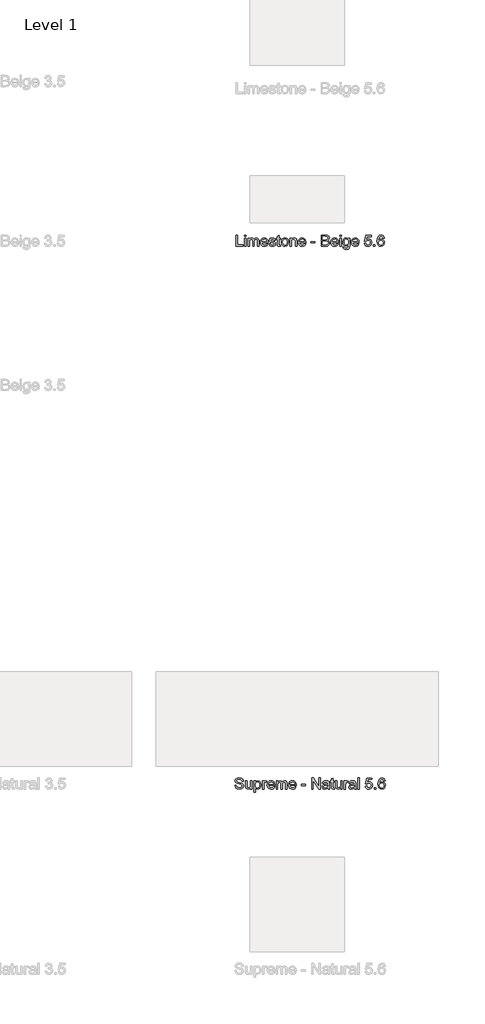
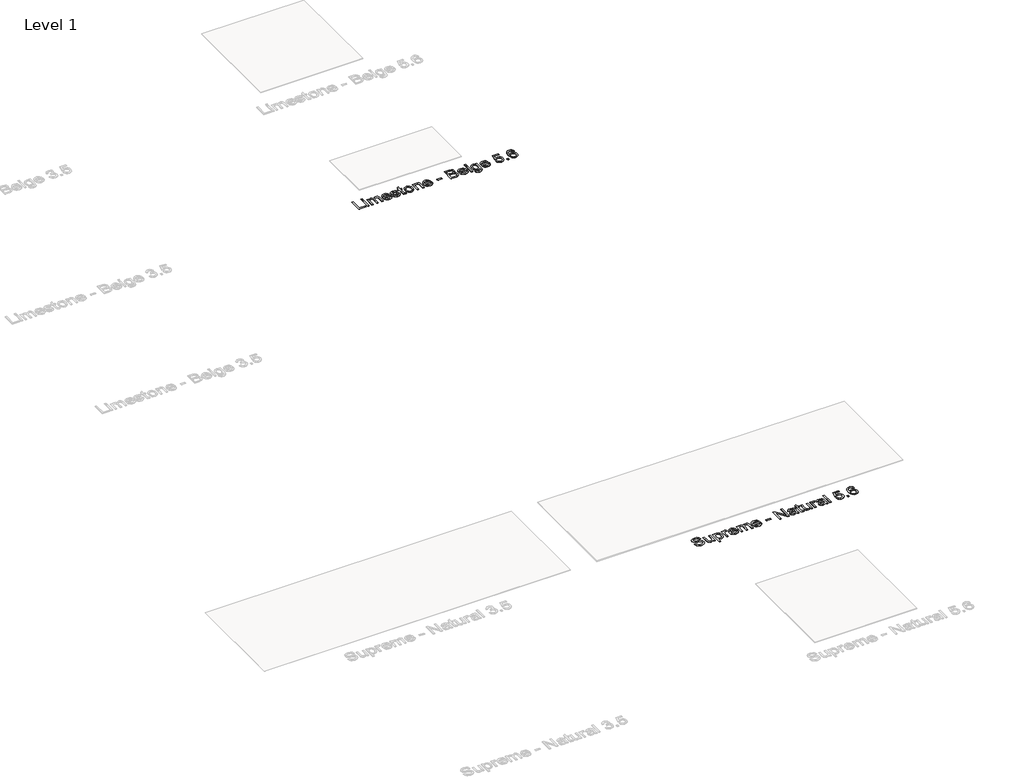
# One storey, part 73 of 80: 2 proxies.
"""IFC4 building model written with IfcOpenShell, lengths in millimetres."""

from ifc_helpers import new_model, si_unit, origin, origin_with_axes, place, context, project, spatial, polyline, outline, extrude, element, save

model = new_model("IFC4")

# Units and contexts
model_context = context("Model", 3, world=origin())
ifc_project = project(units=[si_unit("LENGTHUNIT", "METRE", prefix="MILLI")], contexts=[model_context])

# Site, building, storey
site = spatial("IfcSite", under=ifc_project)
building = spatial("IfcBuilding", under=site)
storey = spatial("IfcBuildingStorey", under=building, Name="Level 1", Elevation=0.0)

# Proxies
placement = place(None, origin())
element("IfcBuildingElementProxy", 1, Name="24\" Arial", ObjectType="24\" Arial", at=placement, inside=storey, context=model_context, shape_type="SweptSolid", body=[
    extrude(outline(polyline([(15947.3854306, 7106.868207), (15947.3854306, 7225.0220532), (15962.1546613, 7225.0220532), (15962.1546613, 7121.6374378), (16021.2315844, 7121.6374378), (16021.2315844, 7106.868207), (15947.3854306, 7106.868207)])), origin_with_axes(), (0.0, 0.0, 1.0), 2.0),
    extrude(outline(polyline([(16036.0008152, 7210.2528224), (16036.0008152, 7225.0220532), (16050.7700459, 7225.0220532), (16050.7700459, 7210.2528224), (16036.0008152, 7210.2528224)])), origin_with_axes(), (0.0, 0.0, 1.0), 2.0),
    extrude(outline(polyline([(16036.0008152, 7106.868207), (16036.0008152, 7193.6374378), (16050.7700459, 7193.6374378), (16050.7700459, 7106.868207), (16036.0008152, 7106.868207)])), origin_with_axes(), (0.0, 0.0, 1.0), 2.0),
    extrude(outline(polyline([(16072.9238921, 7106.868207), (16072.9238921, 7193.6374378), (16087.6931229, 7193.6374378), (16087.6931229, 7179.3585916), (16097.846969, 7191.055707), (16112.2988921, 7195.4835916), (16127.096969, 7190.9691686), (16135.2315844, 7178.3201301), (16146.7556229, 7191.1927263), (16161.3085075, 7195.4835916), (16172.4106709, 7193.6987359), (16180.6210075, 7188.3441686), (16185.6943248, 7179.275659), (16187.3854306, 7166.3489763), (16187.3854306, 7106.868207), (16172.6161998, 7106.868207), (16172.6161998, 7160.0028224), (16171.2460075, 7172.3345532), (16166.284469, 7178.4066686), (16157.846969, 7180.7143609), (16149.8457671, 7179.2359955), (16143.3229306, 7174.8008993), (16138.9851902, 7167.1061878), (16137.5392767, 7155.8489763), (16137.5392767, 7106.868207), (16122.7700459, 7106.868207), (16122.7700459, 7161.6470532), (16119.3517767, 7175.9547455), (16108.1450459, 7180.7143609), (16097.2123536, 7177.541284), (16089.9431229, 7168.2528224), (16087.6931229, 7150.6278224), (16087.6931229, 7106.868207), (16072.9238921, 7106.868207)])), origin_with_axes(), (0.0, 0.0, 1.0), 2.0),
    extrude(outline(polyline([(16270.2892767, 7132.7143609), (16284.7700459, 7130.868207), (16279.5524979, 7119.9571493), (16271.2267767, 7111.8008993), (16259.9803825, 7106.7167647), (16246.0008152, 7105.0220532), (16228.6714883, 7107.946332), (16215.3373536, 7116.7191686), (16206.8349498, 7130.7708513), (16204.0008152, 7149.5316686), (16206.8637959, 7168.9234955), (16215.4527383, 7183.4258993), (16228.6065844, 7192.4691686), (16245.1642767, 7195.4835916), (16261.206344, 7192.4763801), (16274.0248536, 7183.4547455), (16282.4299017, 7168.9811878), (16285.2315844, 7149.618207), (16285.1450459, 7145.6374378), (16218.7700459, 7145.6374378), (16221.3265363, 7134.5821493), (16227.2652383, 7126.4547455), (16235.8361517, 7121.4571493), (16246.2892767, 7119.791284), (16260.7700459, 7122.8778224), (16270.2892767, 7132.7143609)]), holes=[polyline([(16218.7700459, 7160.4066686), (16270.4623536, 7160.4066686), (16264.5488921, 7173.791284), (16255.9383152, 7178.9835916), (16245.1065844, 7180.7143609), (16226.9190844, 7175.1903224), (16221.1967286, 7168.7323897), (16218.7700459, 7160.4066686)])]), origin_with_axes(), (0.0, 0.0, 1.0), 2.0),
    extrude(outline(polyline([(16294.4623536, 7132.7143609), (16309.2315844, 7134.5605147), (16316.0681229, 7123.5989763), (16331.7315844, 7119.791284), (16346.7892767, 7123.2816686), (16351.6931229, 7131.4739763), (16346.7604306, 7138.1085916), (16331.5585075, 7142.3201301), (16309.3181229, 7149.5460916), (16299.6113921, 7157.9835916), (16296.3085075, 7169.8970532), (16298.9623536, 7180.9018609), (16306.2027383, 7189.3105147), (16315.5921613, 7193.680707), (16328.2988921, 7195.4835916), (16346.2700459, 7192.5845532), (16357.6931229, 7184.7383993), (16362.7700459, 7171.4835916), (16348.0008152, 7169.6374378), (16342.4479306, 7177.7864763), (16329.4527383, 7180.7143609), (16315.3181229, 7177.916284), (16311.0777383, 7171.3970532), (16312.8373536, 7167.0989763), (16318.346969, 7163.8393609), (16331.0681229, 7160.6951301), (16352.7460075, 7153.743207), (16362.8133152, 7145.868207), (16366.4623536, 7133.0316686), (16362.1786998, 7118.8970532), (16349.8181229, 7108.6422455), (16331.5296613, 7105.0220532), (16316.6378344, 7106.7672455), (16305.7700459, 7112.0028224), (16298.5152383, 7120.6710916), (16294.4623536, 7132.7143609)])), origin_with_axes(), (0.0, 0.0, 1.0), 2.0),
    extrude(outline(polyline([(16414.4623536, 7119.1855147), (16416.3085075, 7106.4355147), (16405.2604306, 7105.0220532), (16392.8854306, 7107.4739763), (16386.7123536, 7113.9066686), (16384.9238921, 7130.666284), (16384.9238921, 7178.868207), (16373.846969, 7178.868207), (16373.846969, 7193.6374378), (16384.9238921, 7193.6374378), (16384.9238921, 7214.7239763), (16399.6931229, 7223.4066686), (16399.6931229, 7193.6374378), (16414.4623536, 7193.6374378), (16414.4623536, 7178.868207), (16399.6931229, 7178.868207), (16399.6931229, 7131.0989763), (16400.471969, 7123.4835916), (16402.9960075, 7120.7864763), (16408.0296613, 7119.791284), (16414.4623536, 7119.1855147)])), origin_with_axes(), (0.0, 0.0, 1.0), 2.0),
    extrude(outline(polyline([(16425.5392767, 7150.2528224), (16428.7339883, 7171.1734955), (16438.3181229, 7185.8778224), (16450.159469, 7193.0821493), (16464.3373536, 7195.4835916), (16479.8529786, 7192.5593128), (16492.2460075, 7183.7864763), (16500.3698056, 7169.8573897), (16503.0777383, 7151.4643609), (16498.2892767, 7125.1855147), (16484.3421613, 7110.3153224), (16464.3373536, 7105.0220532), (16448.6342286, 7107.9355147), (16436.2556229, 7116.6758993), (16428.2183633, 7130.8970532), (16425.5392767, 7150.2528224)]), holes=[polyline([(16440.3085075, 7150.2816686), (16442.0176421, 7136.915082), (16447.1450459, 7127.3922455), (16454.8613921, 7121.6915243), (16464.3373536, 7119.791284), (16473.7700459, 7121.7023416), (16481.471969, 7127.4355147), (16486.5993729, 7137.0845532), (16488.3085075, 7150.743207), (16486.5885556, 7163.7203705), (16481.4286998, 7173.1133993), (16473.7159594, 7178.8141205), (16464.3373536, 7180.7143609), (16454.8613921, 7178.821332), (16447.1450459, 7173.1422455), (16442.0176421, 7163.6410436), (16440.3085075, 7150.2816686)])]), origin_with_axes(), (0.0, 0.0, 1.0), 2.0),
    extrude(outline(polyline([(16519.6931229, 7106.868207), (16519.6931229, 7193.6374378), (16534.4623536, 7193.6374378), (16534.4623536, 7181.5220532), (16545.7556229, 7191.993207), (16561.1738921, 7195.4835916), (16575.1210075, 7192.6710916), (16584.6402383, 7185.2864763), (16589.0681229, 7174.4258993), (16589.846969, 7160.1470532), (16589.846969, 7106.868207), (16575.0777383, 7106.868207), (16575.0777383, 7158.1566686), (16573.3758152, 7171.2239763), (16567.3613921, 7178.1326301), (16557.221969, 7180.7143609), (16541.1979306, 7174.916284), (16536.1462479, 7166.5148416), (16534.4623536, 7152.9066686), (16534.4623536, 7106.868207), (16519.6931229, 7106.868207)])), origin_with_axes(), (0.0, 0.0, 1.0), 2.0),
    extrude(outline(polyline([(16670.9046613, 7132.7143609), (16685.3854306, 7130.868207), (16680.1678825, 7119.9571493), (16671.8421613, 7111.8008993), (16660.5957671, 7106.7167647), (16646.6161998, 7105.0220532), (16629.2868729, 7107.946332), (16615.9527383, 7116.7191686), (16607.4503344, 7130.7708513), (16604.6161998, 7149.5316686), (16607.4791806, 7168.9234955), (16616.0681229, 7183.4258993), (16629.221969, 7192.4691686), (16645.7796613, 7195.4835916), (16661.8217286, 7192.4763801), (16674.6402383, 7183.4547455), (16683.0452863, 7168.9811878), (16685.846969, 7149.618207), (16685.7604306, 7145.6374378), (16619.3854306, 7145.6374378), (16621.9419209, 7134.5821493), (16627.8806229, 7126.4547455), (16636.4515363, 7121.4571493), (16646.9046613, 7119.791284), (16661.3854306, 7122.8778224), (16670.9046613, 7132.7143609)]), holes=[polyline([(16619.3854306, 7160.4066686), (16671.0777383, 7160.4066686), (16665.1642767, 7173.791284), (16656.5536998, 7178.9835916), (16645.721969, 7180.7143609), (16627.534469, 7175.1903224), (16621.8121133, 7168.7323897), (16619.3854306, 7160.4066686)])]), origin_with_axes(), (0.0, 0.0, 1.0), 2.0),
    extrude(outline(polyline([(16739.3854306, 7141.9451301), (16739.3854306, 7156.7143609), (16785.5392767, 7156.7143609), (16785.5392767, 7141.9451301), (16739.3854306, 7141.9451301)])), origin_with_axes(), (0.0, 0.0, 1.0), 2.0),
    extrude(outline(polyline([(16850.1546613, 7106.868207), (16850.1546613, 7225.0220532), (16895.2411998, 7225.0220532), (16917.3229306, 7221.5460916), (16930.3613921, 7210.8585916), (16935.0777383, 7195.743207), (16931.1113921, 7181.9403224), (16919.1258152, 7171.4835916), (16933.6786998, 7160.4643609), (16938.7700459, 7142.0893609), (16935.2940844, 7126.2095532), (16926.6835075, 7114.9018609), (16913.8325459, 7108.9018609), (16894.8950459, 7106.868207), (16850.1546613, 7106.868207)]), holes=[polyline([(16864.9238921, 7121.6374378), (16895.2123536, 7121.6374378), (16906.1738921, 7122.2143609), (16915.4479306, 7125.430707), (16921.5921613, 7131.993207), (16924.0008152, 7141.9451301), (16921.1738921, 7153.4258993), (16912.0152383, 7160.2768609), (16893.7700459, 7162.2528224), (16864.9238921, 7162.2528224), (16864.9238921, 7121.6374378)]), polyline([(16864.9238921, 7177.0220532), (16891.8950459, 7177.0220532), (16907.6450459, 7178.291284), (16917.1210075, 7183.7576301), (16920.3085075, 7193.3778224), (16917.3373536, 7203.0124378), (16908.8277383, 7208.7095532), (16889.846969, 7210.2528224), (16864.9238921, 7210.2528224), (16864.9238921, 7177.0220532)])]), origin_with_axes(), (0.0, 0.0, 1.0), 2.0),
    extrude(outline(polyline([(17017.9815844, 7132.7143609), (17032.4623536, 7130.868207), (17027.2448056, 7119.9571493), (17018.9190844, 7111.8008993), (17007.6726902, 7106.7167647), (16993.6931229, 7105.0220532), (16976.3637959, 7107.946332), (16963.0296613, 7116.7191686), (16954.5272575, 7130.7708513), (16951.6931229, 7149.5316686), (16954.5561036, 7168.9234955), (16963.1450459, 7183.4258993), (16976.2988921, 7192.4691686), (16992.8565844, 7195.4835916), (17008.8986517, 7192.4763801), (17021.7171613, 7183.4547455), (17030.1222094, 7168.9811878), (17032.9238921, 7149.618207), (17032.8373536, 7145.6374378), (16966.4623536, 7145.6374378), (16969.018844, 7134.5821493), (16974.9575459, 7126.4547455), (16983.5284594, 7121.4571493), (16993.9815844, 7119.791284), (17008.4623536, 7122.8778224), (17017.9815844, 7132.7143609)]), holes=[polyline([(16966.4623536, 7160.4066686), (17018.1546613, 7160.4066686), (17012.2411998, 7173.791284), (17003.6306229, 7178.9835916), (16992.7988921, 7180.7143609), (16974.6113921, 7175.1903224), (16968.8890363, 7168.7323897), (16966.4623536, 7160.4066686)])]), origin_with_axes(), (0.0, 0.0, 1.0), 2.0),
    extrude(outline(polyline([(17047.6931229, 7106.868207), (17047.6931229, 7193.6374378), (17062.4623536, 7193.6374378), (17062.4623536, 7106.868207), (17047.6931229, 7106.868207)])), origin_with_axes(), (0.0, 0.0, 1.0), 2.0),
    extrude(outline(polyline([(17047.6931229, 7210.2528224), (17047.6931229, 7225.0220532), (17062.4623536, 7225.0220532), (17062.4623536, 7210.2528224), (17047.6931229, 7210.2528224)])), origin_with_axes(), (0.0, 0.0, 1.0), 2.0),
    extrude(outline(polyline([(17080.9238921, 7099.4835916), (17095.6931229, 7097.6374378), (17100.4815844, 7089.8489763), (17114.8181229, 7086.5605147), (17129.9335075, 7090.2816686), (17137.1450459, 7100.7239763), (17138.1546613, 7117.9451301), (17127.7556229, 7109.6374378), (17115.0777383, 7106.868207), (17099.8505748, 7110.0917647), (17088.4960075, 7119.7624378), (17081.4323056, 7133.9403224), (17079.0777383, 7150.6855147), (17083.3036998, 7173.5749378), (17095.534469, 7189.7720532), (17114.3565844, 7195.4835916), (17127.5320652, 7192.2528224), (17138.1546613, 7182.5605147), (17138.1546613, 7193.6374378), (17152.9238921, 7193.6374378), (17152.9238921, 7118.7239763), (17148.8854306, 7090.0364763), (17136.0921613, 7076.6951301), (17114.5296613, 7071.791284), (17100.7880748, 7073.5184474), (17089.9671613, 7078.6999378), (17083.0260556, 7087.3501782), (17080.9238921, 7099.4835916)]), holes=[polyline([(17093.846969, 7151.6951301), (17095.4226902, 7138.1482551), (17100.1498536, 7128.8345532), (17107.2568248, 7123.4367166), (17115.971969, 7121.6374378), (17124.6222094, 7123.4258993), (17131.7652383, 7128.791284), (17136.5573056, 7137.9859955), (17138.1546613, 7151.2624378), (17136.5104306, 7164.0665243), (17131.5777383, 7173.2864763), (17124.3301421, 7178.8573897), (17115.7411998, 7180.7143609), (17107.3073056, 7178.8862359), (17100.2363921, 7173.4018609), (17095.4443248, 7164.3189282), (17093.846969, 7151.6951301)])]), origin_with_axes(), (0.0, 0.0, 1.0), 2.0),
    extrude(outline(polyline([(17235.8277383, 7132.7143609), (17250.3085075, 7130.868207), (17245.0909594, 7119.9571493), (17236.7652383, 7111.8008993), (17225.518844, 7106.7167647), (17211.5392767, 7105.0220532), (17194.2099498, 7107.946332), (17180.8758152, 7116.7191686), (17172.3734113, 7130.7708513), (17169.5392767, 7149.5316686), (17172.4022575, 7168.9234955), (17180.9911998, 7183.4258993), (17194.1450459, 7192.4691686), (17210.7027383, 7195.4835916), (17226.7448056, 7192.4763801), (17239.5633152, 7183.4547455), (17247.9683633, 7168.9811878), (17250.7700459, 7149.618207), (17250.6835075, 7145.6374378), (17184.3085075, 7145.6374378), (17186.8649979, 7134.5821493), (17192.8036998, 7126.4547455), (17201.3746133, 7121.4571493), (17211.8277383, 7119.791284), (17226.3085075, 7122.8778224), (17235.8277383, 7132.7143609)]), holes=[polyline([(17184.3085075, 7160.4066686), (17236.0008152, 7160.4066686), (17230.0873536, 7173.791284), (17221.4767767, 7178.9835916), (17210.6450459, 7180.7143609), (17192.4575459, 7175.1903224), (17186.7351902, 7168.7323897), (17184.3085075, 7160.4066686)])]), origin_with_axes(), (0.0, 0.0, 1.0), 2.0),
    extrude(outline(polyline([(17308.0008152, 7138.2528224), (17322.7700459, 7140.0989763), (17330.2123536, 7124.8826301), (17345.6450459, 7119.791284), (17356.2315844, 7121.5617166), (17364.1642767, 7126.8730147), (17369.1186036, 7135.1121974), (17370.7700459, 7145.666284), (17369.2231709, 7155.603784), (17364.5825459, 7163.2047455), (17356.8121133, 7168.0292647), (17345.8758152, 7169.6374378), (17332.909469, 7167.0701301), (17324.6161998, 7160.4066686), (17309.846969, 7162.2528224), (17322.7700459, 7223.1758993), (17380.0008152, 7223.1758993), (17380.0008152, 7208.4066686), (17334.7123536, 7208.4066686), (17328.3950459, 7175.868207), (17338.9455267, 7182.2720532), (17350.0008152, 7184.4066686), (17363.800094, 7181.760034), (17375.2556229, 7173.8201301), (17382.9683633, 7161.7191686), (17385.5392767, 7146.5893609), (17383.2243729, 7131.8201301), (17376.2796613, 7119.1855147), (17362.9815844, 7108.5629186), (17345.5873536, 7105.0220532), (17331.081344, 7107.2972936), (17319.5248536, 7114.1230147), (17311.6029786, 7124.7059474), (17308.0008152, 7138.2528224)])), origin_with_axes(), (0.0, 0.0, 1.0), 2.0),
    extrude(outline(polyline([(17405.846969, 7106.868207), (17405.846969, 7121.6374378), (17420.6161998, 7121.6374378), (17420.6161998, 7106.868207), (17405.846969, 7106.868207)])), origin_with_axes(), (0.0, 0.0, 1.0), 2.0),
    extrude(outline(polyline([(17520.3085075, 7193.6374378), (17505.5392767, 7191.791284), (17499.9431229, 7204.1085916), (17493.2436036, 7208.7167647), (17485.1450459, 7210.2528224), (17471.8181229, 7206.6758993), (17461.7363921, 7193.2480147), (17457.5392767, 7166.9258993), (17470.5633152, 7178.7095532), (17486.7027383, 7182.5605147), (17500.346969, 7179.9283032), (17511.7988921, 7172.0316686), (17519.565719, 7159.9667647), (17522.1546613, 7144.8297455), (17517.2796613, 7124.4499378), (17503.8661998, 7110.0268609), (17484.5104306, 7105.0220532), (17467.7544209, 7108.3393609), (17454.409469, 7118.291284), (17445.6799017, 7135.8585916), (17442.7700459, 7162.0220532), (17446.0008152, 7191.4379186), (17455.6931229, 7211.5508993), (17468.9262959, 7221.6542647), (17486.0681229, 7225.0220532), (17499.0272575, 7222.9379186), (17509.4046613, 7216.6855147), (17516.6738921, 7206.7552263), (17520.3085075, 7193.6374378)]), holes=[polyline([(17457.5392767, 7145.0605147), (17460.9575459, 7132.2672455), (17470.0440844, 7122.978784), (17483.3565844, 7119.791284), (17493.1029786, 7121.4427263), (17500.7652383, 7126.3970532), (17505.7303825, 7134.1855147), (17507.3854306, 7144.3393609), (17505.7520171, 7154.0857551), (17500.8517767, 7161.5172455), (17493.0597094, 7166.2227743), (17482.7508152, 7167.791284), (17473.018844, 7166.2227743), (17464.8806229, 7161.5172455), (17459.3746133, 7154.2660436), (17457.5392767, 7145.0605147)])]), origin_with_axes(), (0.0, 0.0, 1.0), 2.0),
])
element("IfcBuildingElementProxy", 2, Name="24\" Arial", ObjectType="24\" Arial", at=placement, inside=storey, context=model_context, shape_type="SweptSolid", body=[
    extrude(outline(polyline([(15932.6161998, 1389.3439467), (15947.3854306, 1389.3439467), (15952.1450459, 1374.5602928), (15963.7700459, 1365.214139), (15981.4815844, 1361.651639), (15996.9142767, 1364.3487544), (16006.8806229, 1371.7622159), (16010.1546613, 1381.6708697), (16007.7027383, 1390.8872159), (15997.6642767, 1397.5939467), (15976.159469, 1403.2333697), (15953.0104306, 1410.5170236), (15940.4479306, 1421.5074082), (15936.3085075, 1436.1901005), (15941.4286998, 1452.9064467), (15956.3854306, 1464.7045236), (15978.2796613, 1468.728562), (16001.6450459, 1464.5170236), (16017.221969, 1452.1420236), (16023.0777383, 1433.651639), (16008.3085075, 1433.651639), (16005.596969, 1442.464139), (15999.9431229, 1448.8247159), (15991.1089883, 1452.6756774), (15978.8565844, 1453.9593313), (15966.315719, 1452.6901005), (15957.7123536, 1448.8824082), (15952.7363921, 1443.2790428), (15951.0777383, 1436.6227928), (15955.7796613, 1426.3824082), (15979.8950459, 1418.1324082), (16006.0296613, 1410.7189467), (16020.3229306, 1398.7477928), (16024.9238921, 1382.0458697), (16019.6306229, 1364.3776005), (16004.3998536, 1351.4833697), (15982.0585075, 1346.8824082), (15955.6786998, 1351.8439467), (15946.1919209, 1358.0602928), (15938.9911998, 1366.7862544), (15932.6161998, 1389.3439467)])), origin_with_axes(), (0.0, 0.0, 1.0), 2.0),
    extrude(outline(polyline([(16100.6161998, 1348.728562), (16100.6161998, 1363.6420236), (16089.0488921, 1351.072312), (16073.9623536, 1346.8824082), (16060.0729306, 1349.8247159), (16050.4960075, 1357.2093313), (16046.096969, 1368.0843313), (16045.2315844, 1381.8151005), (16045.2315844, 1435.4977928), (16060.0008152, 1435.4977928), (16060.0008152, 1388.7670236), (16060.8950459, 1373.7093313), (16066.7363921, 1364.8679851), (16077.7411998, 1361.651639), (16090.0729306, 1364.9401005), (16098.221969, 1373.8968313), (16100.6161998, 1390.353562), (16100.6161998, 1435.4977928), (16115.3854306, 1435.4977928), (16115.3854306, 1348.728562), (16100.6161998, 1348.728562)])), origin_with_axes(), (0.0, 0.0, 1.0), 2.0),
    extrude(outline(polyline([(16135.6931229, 1315.4977928), (16135.6931229, 1435.4977928), (16150.4623536, 1435.4977928), (16150.4623536, 1421.0170236), (16160.6738921, 1433.2622159), (16174.4623536, 1437.3439467), (16193.1835075, 1431.6324082), (16205.4142767, 1415.5362544), (16209.5392767, 1392.776639), (16204.8806229, 1368.8487544), (16199.1690844, 1359.4593313), (16191.3517767, 1352.5506774), (16172.6738921, 1346.8824082), (16159.8229306, 1350.6756774), (16150.4623536, 1360.2670236), (16150.4623536, 1315.4977928), (16135.6931229, 1315.4977928)]), holes=[polyline([(16150.4623536, 1391.4208697), (16152.0597094, 1378.1804851), (16156.8517767, 1368.9208697), (16163.9226902, 1363.4689467), (16172.3565844, 1361.651639), (16180.9274979, 1363.5338505), (16188.1786998, 1369.1804851), (16193.1222094, 1378.7790428), (16194.7700459, 1392.5170236), (16193.1618729, 1405.6852928), (16188.3373536, 1415.0747159), (16181.2772575, 1420.6997159), (16172.9623536, 1422.5747159), (16164.6149979, 1420.5807255), (16157.284469, 1414.5987544), (16152.1678825, 1404.8163024), (16150.4623536, 1391.4208697)])]), origin_with_axes(), (0.0, 0.0, 1.0), 2.0),
    extrude(outline(polyline([(16226.1546613, 1348.728562), (16226.1546613, 1435.4977928), (16239.0777383, 1435.4977928), (16239.0777383, 1422.6612544), (16248.2508152, 1434.4881774), (16257.4815844, 1437.3439467), (16272.3085075, 1432.7862544), (16267.3758152, 1419.5458697), (16256.9911998, 1422.5747159), (16248.6402383, 1419.6612544), (16243.3181229, 1411.5843313), (16240.9238921, 1394.3343313), (16240.9238921, 1348.728562), (16226.1546613, 1348.728562)])), origin_with_axes(), (0.0, 0.0, 1.0), 2.0),
    extrude(outline(polyline([(16342.2892767, 1374.5747159), (16356.7700459, 1372.728562), (16351.5524979, 1361.8175044), (16343.2267767, 1353.6612544), (16331.9803825, 1348.5771197), (16318.0008152, 1346.8824082), (16300.6714883, 1349.806687), (16287.3373536, 1358.5795236), (16278.8349498, 1372.6312063), (16276.0008152, 1391.3920236), (16278.8637959, 1410.7838505), (16287.4527383, 1425.2862544), (16300.6065844, 1434.3295236), (16317.1642767, 1437.3439467), (16333.206344, 1434.3367351), (16346.0248536, 1425.3151005), (16354.4299017, 1410.8415428), (16357.2315844, 1391.478562), (16357.1450459, 1387.4977928), (16290.7700459, 1387.4977928), (16293.3265363, 1376.4425044), (16299.2652383, 1368.3151005), (16307.8361517, 1363.3175044), (16318.2892767, 1361.651639), (16332.7700459, 1364.7381774), (16342.2892767, 1374.5747159)]), holes=[polyline([(16290.7700459, 1402.2670236), (16342.4623536, 1402.2670236), (16336.5488921, 1415.651639), (16327.9383152, 1420.8439467), (16317.1065844, 1422.5747159), (16298.9190844, 1417.0506774), (16293.1967286, 1410.5927447), (16290.7700459, 1402.2670236)])]), origin_with_axes(), (0.0, 0.0, 1.0), 2.0),
    extrude(outline(polyline([(16372.0008152, 1348.728562), (16372.0008152, 1435.4977928), (16386.7700459, 1435.4977928), (16386.7700459, 1421.2189467), (16396.9238921, 1432.916062), (16411.3758152, 1437.3439467), (16426.1738921, 1432.8295236), (16434.3085075, 1420.1804851), (16445.8325459, 1433.0530813), (16460.3854306, 1437.3439467), (16471.487594, 1435.5590909), (16479.6979306, 1430.2045236), (16484.7712479, 1421.136014), (16486.4623536, 1408.2093313), (16486.4623536, 1348.728562), (16471.6931229, 1348.728562), (16471.6931229, 1401.8631774), (16470.3229306, 1414.1949082), (16465.3613921, 1420.2670236), (16456.9238921, 1422.5747159), (16448.9226902, 1421.0963505), (16442.3998536, 1416.6612544), (16438.0621133, 1408.9665428), (16436.6161998, 1397.7093313), (16436.6161998, 1348.728562), (16421.846969, 1348.728562), (16421.846969, 1403.5074082), (16418.4286998, 1417.8151005), (16407.221969, 1422.5747159), (16396.2892767, 1419.401639), (16389.0200459, 1410.1131774), (16386.7700459, 1392.4881774), (16386.7700459, 1348.728562), (16372.0008152, 1348.728562)])), origin_with_axes(), (0.0, 0.0, 1.0), 2.0),
    extrude(outline(polyline([(16569.3661998, 1374.5747159), (16583.846969, 1372.728562), (16578.6294209, 1361.8175044), (16570.3036998, 1353.6612544), (16559.0573056, 1348.5771197), (16545.0777383, 1346.8824082), (16527.7484113, 1349.806687), (16514.4142767, 1358.5795236), (16505.9118729, 1372.6312063), (16503.0777383, 1391.3920236), (16505.940719, 1410.7838505), (16514.5296613, 1425.2862544), (16527.6835075, 1434.3295236), (16544.2411998, 1437.3439467), (16560.2832671, 1434.3367351), (16573.1017767, 1425.3151005), (16581.5068248, 1410.8415428), (16584.3085075, 1391.478562), (16584.221969, 1387.4977928), (16517.846969, 1387.4977928), (16520.4034594, 1376.4425044), (16526.3421613, 1368.3151005), (16534.9130748, 1363.3175044), (16545.3661998, 1361.651639), (16559.846969, 1364.7381774), (16569.3661998, 1374.5747159)]), holes=[polyline([(16517.846969, 1402.2670236), (16569.5392767, 1402.2670236), (16563.6258152, 1415.651639), (16555.0152383, 1420.8439467), (16544.1835075, 1422.5747159), (16525.9960075, 1417.0506774), (16520.2736517, 1410.5927447), (16517.846969, 1402.2670236)])]), origin_with_axes(), (0.0, 0.0, 1.0), 2.0),
    extrude(outline(polyline([(16637.846969, 1383.8054851), (16637.846969, 1398.5747159), (16684.0008152, 1398.5747159), (16684.0008152, 1383.8054851), (16637.846969, 1383.8054851)])), origin_with_axes(), (0.0, 0.0, 1.0), 2.0),
    extrude(outline(polyline([(16748.6161998, 1348.728562), (16748.6161998, 1466.8824082), (16764.4238921, 1466.8824082), (16826.1546613, 1373.276639), (16826.1546613, 1466.8824082), (16840.9238921, 1466.8824082), (16840.9238921, 1348.728562), (16825.1161998, 1348.728562), (16763.3854306, 1442.3631774), (16763.3854306, 1348.728562), (16748.6161998, 1348.728562)])), origin_with_axes(), (0.0, 0.0, 1.0), 2.0),
    extrude(outline(polyline([(16920.3085075, 1359.8054851), (16905.9863921, 1349.7958697), (16890.1642767, 1346.8824082), (16877.8217286, 1348.634812), (16868.7171613, 1353.8920236), (16863.1029786, 1361.8751967), (16861.2315844, 1371.8054851), (16864.0585075, 1383.4881774), (16871.4863921, 1391.9689467), (16881.8277383, 1396.8151005), (16894.6065844, 1399.0362544), (16920.221969, 1404.1131774), (16920.3085075, 1407.401639), (16916.2411998, 1418.3054851), (16899.9142767, 1422.5747159), (16884.971969, 1419.7333697), (16877.846969, 1409.651639), (16863.0777383, 1411.4977928), (16869.4671613, 1425.9208697), (16882.3325459, 1434.3727928), (16901.8181229, 1437.3439467), (16919.7171613, 1434.7189467), (16929.8277383, 1428.1276005), (16934.3565844, 1418.103562), (16935.0777383, 1405.1804851), (16935.0777383, 1386.8054851), (16935.8277383, 1361.1468313), (16938.7700459, 1348.728562), (16924.0008152, 1348.728562), (16920.3085075, 1359.8054851)]), holes=[polyline([(16920.3085075, 1389.3439467), (16896.4815844, 1384.8151005), (16883.7748536, 1382.4208697), (16878.0200459, 1378.526639), (16876.0008152, 1372.8439467), (16880.3998536, 1364.853562), (16893.3085075, 1361.651639), (16908.2508152, 1365.1852928), (16917.8854306, 1373.7381774), (16920.221969, 1385.1612544), (16920.3085075, 1389.3439467)])]), origin_with_axes(), (0.0, 0.0, 1.0), 2.0),
    extrude(outline(polyline([(16986.7700459, 1361.0458697), (16988.6161998, 1348.2958697), (16977.5681229, 1346.8824082), (16965.1931229, 1349.3343313), (16959.0200459, 1355.7670236), (16957.2315844, 1372.526639), (16957.2315844, 1420.728562), (16946.1546613, 1420.728562), (16946.1546613, 1435.4977928), (16957.2315844, 1435.4977928), (16957.2315844, 1456.5843313), (16972.0008152, 1465.2670236), (16972.0008152, 1435.4977928), (16986.7700459, 1435.4977928), (16986.7700459, 1420.728562), (16972.0008152, 1420.728562), (16972.0008152, 1372.9593313), (16972.7796613, 1365.3439467), (16975.3036998, 1362.6468313), (16980.3373536, 1361.651639), (16986.7700459, 1361.0458697)])), origin_with_axes(), (0.0, 0.0, 1.0), 2.0),
    extrude(outline(polyline([(17056.9238921, 1348.728562), (17056.9238921, 1363.6420236), (17045.3565844, 1351.072312), (17030.2700459, 1346.8824082), (17016.3806229, 1349.8247159), (17006.8036998, 1357.2093313), (17002.4046613, 1368.0843313), (17001.5392767, 1381.8151005), (17001.5392767, 1435.4977928), (17016.3085075, 1435.4977928), (17016.3085075, 1388.7670236), (17017.2027383, 1373.7093313), (17023.0440844, 1364.8679851), (17034.0488921, 1361.651639), (17046.3806229, 1364.9401005), (17054.5296613, 1373.8968313), (17056.9238921, 1390.353562), (17056.9238921, 1435.4977928), (17071.6931229, 1435.4977928), (17071.6931229, 1348.728562), (17056.9238921, 1348.728562)])), origin_with_axes(), (0.0, 0.0, 1.0), 2.0),
    extrude(outline(polyline([(17092.0008152, 1348.728562), (17092.0008152, 1435.4977928), (17104.9238921, 1435.4977928), (17104.9238921, 1422.6612544), (17114.096969, 1434.4881774), (17123.3277383, 1437.3439467), (17138.1546613, 1432.7862544), (17133.221969, 1419.5458697), (17122.8373536, 1422.5747159), (17114.4863921, 1419.6612544), (17109.1642767, 1411.5843313), (17106.7700459, 1394.3343313), (17106.7700459, 1348.728562), (17092.0008152, 1348.728562)])), origin_with_axes(), (0.0, 0.0, 1.0), 2.0),
    extrude(outline(polyline([(17202.7700459, 1359.8054851), (17188.4479306, 1349.7958697), (17172.6258152, 1346.8824082), (17160.2832671, 1348.634812), (17151.1786998, 1353.8920236), (17145.5645171, 1361.8751967), (17143.6931229, 1371.8054851), (17146.5200459, 1383.4881774), (17153.9479306, 1391.9689467), (17164.2892767, 1396.8151005), (17177.0681229, 1399.0362544), (17202.6835075, 1404.1131774), (17202.7700459, 1407.401639), (17198.7027383, 1418.3054851), (17182.3758152, 1422.5747159), (17167.4335075, 1419.7333697), (17160.3085075, 1409.651639), (17145.5392767, 1411.4977928), (17151.9286998, 1425.9208697), (17164.7940844, 1434.3727928), (17184.2796613, 1437.3439467), (17202.1786998, 1434.7189467), (17212.2892767, 1428.1276005), (17216.8181229, 1418.103562), (17217.5392767, 1405.1804851), (17217.5392767, 1386.8054851), (17218.2892767, 1361.1468313), (17221.2315844, 1348.728562), (17206.4623536, 1348.728562), (17202.7700459, 1359.8054851)]), holes=[polyline([(17202.7700459, 1389.3439467), (17178.9431229, 1384.8151005), (17166.2363921, 1382.4208697), (17160.4815844, 1378.526639), (17158.4623536, 1372.8439467), (17162.8613921, 1364.853562), (17175.7700459, 1361.651639), (17190.7123536, 1365.1852928), (17200.346969, 1373.7381774), (17202.6835075, 1385.1612544), (17202.7700459, 1389.3439467)])]), origin_with_axes(), (0.0, 0.0, 1.0), 2.0),
    extrude(outline(polyline([(17237.846969, 1348.728562), (17237.846969, 1466.8824082), (17252.6161998, 1466.8824082), (17252.6161998, 1348.728562), (17237.846969, 1348.728562)])), origin_with_axes(), (0.0, 0.0, 1.0), 2.0),
    extrude(outline(polyline([(17317.2315844, 1380.1131774), (17332.0008152, 1381.9593313), (17339.4431229, 1366.7429851), (17354.8758152, 1361.651639), (17365.4623536, 1363.4220717), (17373.3950459, 1368.7333697), (17378.3493729, 1376.9725524), (17380.0008152, 1387.526639), (17378.4539402, 1397.464139), (17373.8133152, 1405.0651005), (17366.0428825, 1409.8896197), (17355.1065844, 1411.4977928), (17342.1402383, 1408.9304851), (17333.846969, 1402.2670236), (17319.0777383, 1404.1131774), (17332.0008152, 1465.0362544), (17389.2315844, 1465.0362544), (17389.2315844, 1450.2670236), (17343.9431229, 1450.2670236), (17337.6258152, 1417.728562), (17348.1762959, 1424.1324082), (17359.2315844, 1426.2670236), (17373.0308633, 1423.620389), (17384.4863921, 1415.6804851), (17392.1991325, 1403.5795236), (17394.7700459, 1388.4497159), (17392.4551421, 1373.6804851), (17385.5104306, 1361.0458697), (17372.2123536, 1350.4232736), (17354.8181229, 1346.8824082), (17340.3121133, 1349.1576486), (17328.7556229, 1355.9833697), (17320.8337479, 1366.5663024), (17317.2315844, 1380.1131774)])), origin_with_axes(), (0.0, 0.0, 1.0), 2.0),
    extrude(outline(polyline([(17415.0777383, 1348.728562), (17415.0777383, 1363.4977928), (17429.846969, 1363.4977928), (17429.846969, 1348.728562), (17415.0777383, 1348.728562)])), origin_with_axes(), (0.0, 0.0, 1.0), 2.0),
    extrude(outline(polyline([(17529.5392767, 1435.4977928), (17514.7700459, 1433.651639), (17509.1738921, 1445.9689467), (17502.4743729, 1450.5771197), (17494.3758152, 1452.1131774), (17481.0488921, 1448.5362544), (17470.9671613, 1435.1083697), (17466.7700459, 1408.7862544), (17479.7940844, 1420.5699082), (17495.9335075, 1424.4208697), (17509.5777383, 1421.7886582), (17521.0296613, 1413.8920236), (17528.7964883, 1401.8271197), (17531.3854306, 1386.6901005), (17526.5104306, 1366.3102928), (17513.096969, 1351.8872159), (17493.7411998, 1346.8824082), (17476.9851902, 1350.1997159), (17463.6402383, 1360.151639), (17454.9106709, 1377.7189467), (17452.0008152, 1403.8824082), (17455.2315844, 1433.2982736), (17464.9238921, 1453.4112544), (17478.1570652, 1463.5146197), (17495.2988921, 1466.8824082), (17508.2580267, 1464.7982736), (17518.6354306, 1458.5458697), (17525.9046613, 1448.6155813), (17529.5392767, 1435.4977928)]), holes=[polyline([(17466.7700459, 1386.9208697), (17470.1883152, 1374.1276005), (17479.2748536, 1364.839139), (17492.5873536, 1361.651639), (17502.3337479, 1363.3030813), (17509.9960075, 1368.2574082), (17514.9611517, 1376.0458697), (17516.6161998, 1386.1997159), (17514.9827863, 1395.9461101), (17510.0825459, 1403.3776005), (17502.2904786, 1408.0831294), (17491.9815844, 1409.651639), (17482.2496133, 1408.0831294), (17474.1113921, 1403.3776005), (17468.6053825, 1396.1263986), (17466.7700459, 1386.9208697)])]), origin_with_axes(), (0.0, 0.0, 1.0), 2.0),
])

save(model, "model.ifc")
